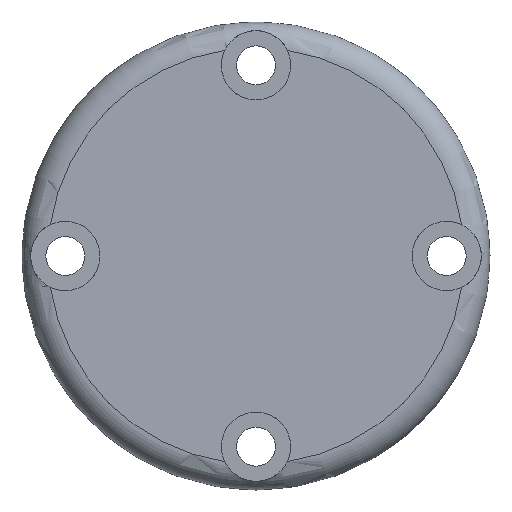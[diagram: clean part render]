
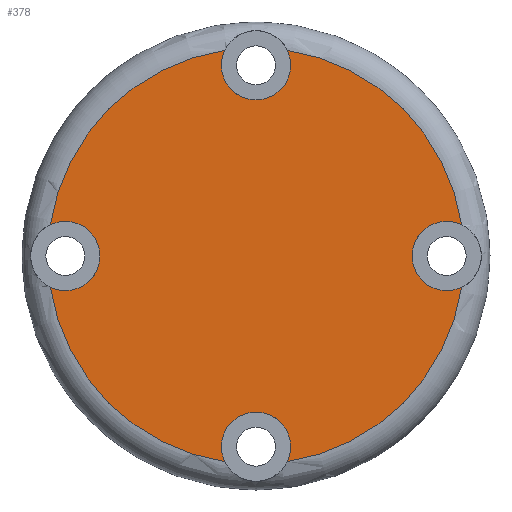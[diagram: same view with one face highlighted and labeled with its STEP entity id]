
A CAD part, left-side view. The second image highlights one B-rep face of the part: STEP entity #378.
In plain terms, the highlighted planar face has unit normal (-1, 0, 0).
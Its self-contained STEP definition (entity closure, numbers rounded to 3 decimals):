
#81=FACE_OUTER_BOUND('',#107,.T.);
#107=EDGE_LOOP('',(#311,#312,#313,#314,#315,#316,#317,#318,#319,#320,#321,
#322));
#124=CIRCLE('',#414,4.);
#125=CIRCLE('',#415,4.);
#129=CIRCLE('',#422,4.);
#130=CIRCLE('',#423,4.);
#134=CIRCLE('',#430,4.);
#135=CIRCLE('',#431,4.);
#137=CIRCLE('',#435,24.);
#138=CIRCLE('',#436,24.);
#142=CIRCLE('',#440,24.);
#143=CIRCLE('',#441,24.);
#146=CIRCLE('',#446,4.);
#147=CIRCLE('',#447,4.);
#161=VERTEX_POINT('',#608);
#162=VERTEX_POINT('',#609);
#163=VERTEX_POINT('',#628);
#167=VERTEX_POINT('',#642);
#168=VERTEX_POINT('',#643);
#169=VERTEX_POINT('',#662);
#173=VERTEX_POINT('',#676);
#175=VERTEX_POINT('',#690);
#176=VERTEX_POINT('',#693);
#180=VERTEX_POINT('',#717);
#181=VERTEX_POINT('',#719);
#184=VERTEX_POINT('',#745);
#198=EDGE_CURVE('',#163,#161,#124,.T.);
#200=EDGE_CURVE('',#162,#163,#125,.T.);
#206=EDGE_CURVE('',#169,#167,#129,.T.);
#208=EDGE_CURVE('',#168,#169,#130,.T.);
#214=EDGE_CURVE('',#175,#173,#134,.T.);
#216=EDGE_CURVE('',#176,#175,#135,.T.);
#220=EDGE_CURVE('',#167,#162,#137,.T.);
#221=EDGE_CURVE('',#173,#168,#138,.T.);
#225=EDGE_CURVE('',#180,#176,#142,.T.);
#227=EDGE_CURVE('',#161,#181,#143,.T.);
#230=EDGE_CURVE('',#184,#180,#146,.T.);
#232=EDGE_CURVE('',#181,#184,#147,.T.);
#311=ORIENTED_EDGE('',*,*,#200,.T.);
#312=ORIENTED_EDGE('',*,*,#198,.T.);
#313=ORIENTED_EDGE('',*,*,#227,.T.);
#314=ORIENTED_EDGE('',*,*,#232,.T.);
#315=ORIENTED_EDGE('',*,*,#230,.T.);
#316=ORIENTED_EDGE('',*,*,#225,.T.);
#317=ORIENTED_EDGE('',*,*,#216,.T.);
#318=ORIENTED_EDGE('',*,*,#214,.T.);
#319=ORIENTED_EDGE('',*,*,#221,.T.);
#320=ORIENTED_EDGE('',*,*,#208,.T.);
#321=ORIENTED_EDGE('',*,*,#206,.T.);
#322=ORIENTED_EDGE('',*,*,#220,.T.);
#361=PLANE('',#450);
#378=ADVANCED_FACE('',(#81),#361,.T.);
#414=AXIS2_PLACEMENT_3D('',#629,#479,#480);
#415=AXIS2_PLACEMENT_3D('',#631,#482,#483);
#422=AXIS2_PLACEMENT_3D('',#663,#497,#498);
#423=AXIS2_PLACEMENT_3D('',#665,#500,#501);
#430=AXIS2_PLACEMENT_3D('',#691,#515,#516);
#431=AXIS2_PLACEMENT_3D('',#694,#518,#519);
#435=AXIS2_PLACEMENT_3D('',#710,#527,#528);
#436=AXIS2_PLACEMENT_3D('',#711,#529,#530);
#440=AXIS2_PLACEMENT_3D('',#718,#537,#538);
#441=AXIS2_PLACEMENT_3D('',#738,#539,#540);
#446=AXIS2_PLACEMENT_3D('',#746,#549,#550);
#447=AXIS2_PLACEMENT_3D('',#748,#552,#553);
#450=AXIS2_PLACEMENT_3D('',#753,#559,#560);
#479=DIRECTION('center_axis',(1.,0.,0.));
#480=DIRECTION('ref_axis',(0.,-1.,0.));
#482=DIRECTION('center_axis',(1.,0.,0.));
#483=DIRECTION('ref_axis',(0.,-1.,0.));
#497=DIRECTION('center_axis',(1.,0.,0.));
#498=DIRECTION('ref_axis',(0.,0.,-1.));
#500=DIRECTION('center_axis',(1.,0.,0.));
#501=DIRECTION('ref_axis',(0.,0.,-1.));
#515=DIRECTION('center_axis',(1.,0.,0.));
#516=DIRECTION('ref_axis',(0.,1.,0.));
#518=DIRECTION('center_axis',(1.,0.,0.));
#519=DIRECTION('ref_axis',(0.,1.,0.));
#527=DIRECTION('center_axis',(-1.,0.,0.));
#528=DIRECTION('ref_axis',(0.,0.,1.));
#529=DIRECTION('center_axis',(-1.,0.,0.));
#530=DIRECTION('ref_axis',(0.,0.,1.));
#537=DIRECTION('center_axis',(-1.,0.,0.));
#538=DIRECTION('ref_axis',(0.,0.,1.));
#539=DIRECTION('center_axis',(-1.,0.,0.));
#540=DIRECTION('ref_axis',(0.,0.,1.));
#549=DIRECTION('center_axis',(1.,0.,0.));
#550=DIRECTION('ref_axis',(0.,0.,1.));
#552=DIRECTION('center_axis',(1.,0.,0.));
#553=DIRECTION('ref_axis',(0.,0.,1.));
#559=DIRECTION('center_axis',(-1.,0.,0.));
#560=DIRECTION('ref_axis',(0.,0.,1.));
#608=CARTESIAN_POINT('',(-11.,3.608,23.727));
#609=CARTESIAN_POINT('',(-11.,-3.608,23.727));
#628=CARTESIAN_POINT('',(-11.,4.,22.));
#629=CARTESIAN_POINT('Origin',(-11.,0.,22.));
#631=CARTESIAN_POINT('Origin',(-11.,0.,22.));
#642=CARTESIAN_POINT('',(-11.,-23.727,3.608));
#643=CARTESIAN_POINT('',(-11.,-23.727,-3.608));
#662=CARTESIAN_POINT('',(-11.,-22.,4.));
#663=CARTESIAN_POINT('Origin',(-11.,-22.,0.));
#665=CARTESIAN_POINT('Origin',(-11.,-22.,0.));
#676=CARTESIAN_POINT('',(-11.,-3.608,-23.727));
#690=CARTESIAN_POINT('',(-11.,-4.,-22.));
#691=CARTESIAN_POINT('Origin',(-11.,0.,-22.));
#693=CARTESIAN_POINT('',(-11.,3.608,-23.727));
#694=CARTESIAN_POINT('Origin',(-11.,0.,-22.));
#710=CARTESIAN_POINT('Origin',(-11.,0.,0.));
#711=CARTESIAN_POINT('Origin',(-11.,0.,0.));
#717=CARTESIAN_POINT('',(-11.,23.727,-3.608));
#718=CARTESIAN_POINT('Origin',(-11.,0.,0.));
#719=CARTESIAN_POINT('',(-11.,23.727,3.608));
#738=CARTESIAN_POINT('Origin',(-11.,0.,0.));
#745=CARTESIAN_POINT('',(-11.,22.,-4.));
#746=CARTESIAN_POINT('Origin',(-11.,22.,0.));
#748=CARTESIAN_POINT('Origin',(-11.,22.,0.));
#753=CARTESIAN_POINT('Origin',(-11.,0.,0.));
